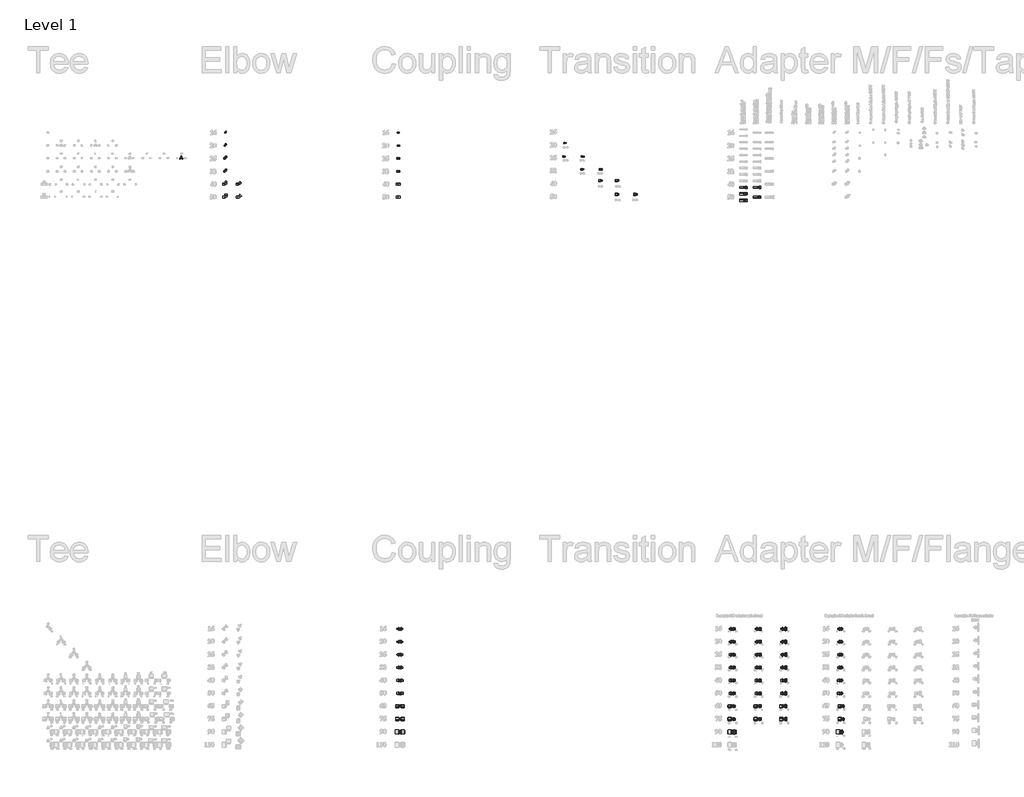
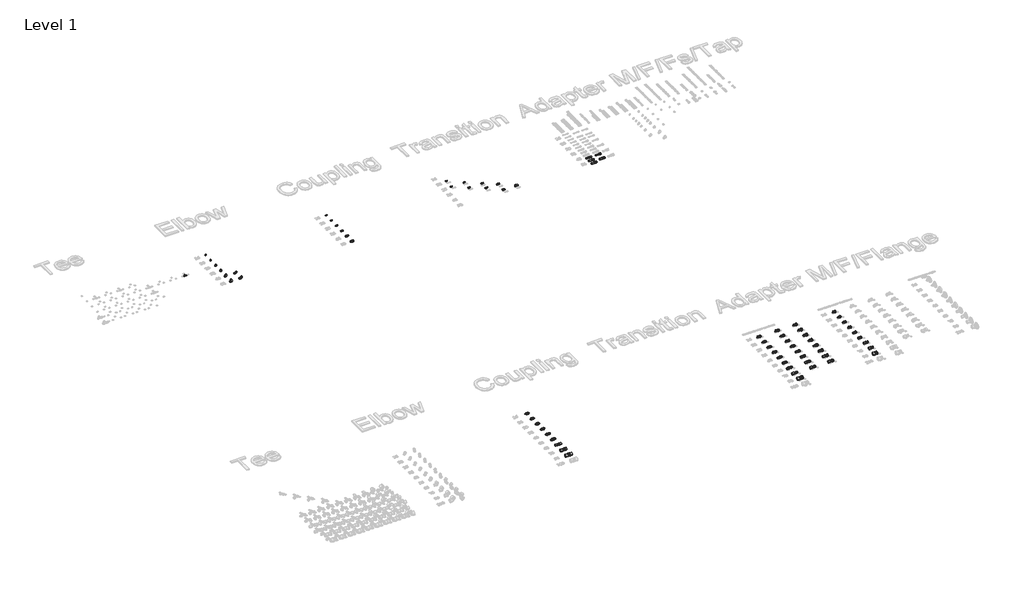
# One storey, part 4 of 57: 115 pipe fittings, 5 pipe segments.
"""IFC4 building model written with IfcOpenShell, lengths in millimetres."""

from ifc_helpers import new_model, si_unit, point, frame, frame_2d, origin, place, context, project, spatial, circle_curve, trimmed, segment, composite_curve, outline, extrude, transform, mapped, element, save
from components import pipe_fitting_febb8c26, pipe_fitting_ee53dc26, pipe_fitting_5d435a47, pipe_fitting_f86cb8b1, pipe_fitting_75c274c5, pipe_fitting_fdee5b0f, pipe_fitting_00e09e2c, pipe_fitting_8b6750b8, pipe_fitting_b58f9e6b, pipe_fitting_7024b630, pipe_fitting_8bcbff30, pipe_fitting_ede8caec, pipe_fitting_6526e532, pipe_fitting_38a23432, pipe_fitting_38146fe8, pipe_fitting_285861eb, pipe_fitting_791a4e73, pipe_fitting_e8fe2fe8, pipe_fitting_55ec275f, pipe_fitting_0a3e55ba, rs_adapter_b4bbd465, rs_adapter_f82712ed, rs_adapter_ef84fdb0, rs_adapter_c6cd646c, rs_adapter_ed761ce0, rs_adapter_634e7d73, rs_adapter_fc67200b, rs_adapter_b700a1d7, rs_adapter_1ad0a11d, rs_female_adapter_fa9c9adc, rs_female_adapter_0a1702e8, rs_male_adapter_99ed5b1f, rs_male_adapter_996c7fea, rs_male_adapter_f12c7176, rs_male_adapter_b5bc1ed4, superpipe_reducer_superpipe_reducer_d10aa00e, superpipe_reducer_superpipe_reducer_131d987d, superpipe_reducer_superpipe_reducer_bb732e57, superpipe_reducer_superpipe_reducer_4bdf23cd, superpipe_reducer_superpipe_reducer_a04450db, superpipe_reducer_superpipe_reducer_248c0d74, superpipe_reducer_superpipe_reducer_defe1720, superpipe_reducer_superpipe_reducer_0b1711ec, superpipe_reducer_superpipe_reducer_5a229b10

model = new_model("IFC4")

# Units and contexts
model_context = context("Model", 3, world=origin())
ifc_project = project(units=[si_unit("LENGTHUNIT", "METRE", prefix="MILLI")], contexts=[model_context])

# Site, building, storey
site = spatial("IfcSite", under=ifc_project)
building = spatial("IfcBuilding", under=site)
storey = spatial("IfcBuildingStorey", under=building, Name="Level 1", Elevation=27.3876384)

# Pipe fittings
placement = place(None, origin())
pipe_fitting_shape = pipe_fitting_febb8c26(model_context)
element("IfcPipeFitting", 1, ObjectType="SuperPipe_Tee_SPressPlus : SuperPipe_Tee_SPressPlus", at=placement, inside=storey, context=model_context, shape_type="MappedRepresentation", body=[
    mapped(pipe_fitting_shape, transform((16362.0630476, 29595.7013539, 27.3876384), x_axis=(-1.0, 0.0, 0.0), y_axis=(0.0, -1.0, 0.0), z_axis=(0.0, 0.0, 1.0))),
])
pipe_fitting_2_shape = pipe_fitting_ee53dc26(model_context)
element("IfcPipeFitting", 2, ObjectType="SuperPipe_Elbow_SPressPlus : SuperPipe_Elbow_SPressPlus", at=placement, inside=storey, context=model_context, shape_type="MappedRepresentation", body=[
    mapped(pipe_fitting_2_shape, transform((17402.2171608, 28995.9762969, 27.3876384), x_axis=(1.0, 0.0, 0.0), y_axis=(0.0, 1.0, 0.0), z_axis=(0.0, 0.0, 1.0))),
])
pipe_fitting_3_shape = pipe_fitting_5d435a47(model_context)
element("IfcPipeFitting", 3, ObjectType="SuperPipe_Coupling_SPressPlus : SuperPipe_Coupling_SPressPlus", at=placement, inside=storey, context=model_context, shape_type="MappedRepresentation", body=[
    mapped(pipe_fitting_3_shape, transform((21411.8746831, 29595.7013539, 27.3876384), x_axis=(1.0, 0.0, 0.0), y_axis=(0.0, 1.0, 0.0), z_axis=(0.0, 0.0, 1.0))),
])
pipe_fitting_4_shape = pipe_fitting_f86cb8b1(model_context)
element("IfcPipeFitting", 4, ObjectType="SuperPipe_Elbow_SPressPlus : SuperPipe_Elbow_SPressPlus", at=placement, inside=storey, context=model_context, shape_type="MappedRepresentation", body=[
    mapped(pipe_fitting_4_shape, transform((17402.2171608, 30195.9764109, 27.3876384), x_axis=(1.0, 0.0, 0.0), y_axis=(0.0, 1.0, 0.0), z_axis=(0.0, 0.0, 1.0))),
])
pipe_fitting_5_shape = pipe_fitting_75c274c5(model_context)
element("IfcPipeFitting", 5, ObjectType="SuperPipe_Elbow_SPressPlus : SuperPipe_Elbow_SPressPlus", at=placement, inside=storey, context=model_context, shape_type="MappedRepresentation", body=[
    mapped(pipe_fitting_5_shape, transform((17402.2171608, 29895.7038824, 27.3876384), x_axis=(1.0, 0.0, 0.0), y_axis=(0.0, 1.0, 0.0), z_axis=(0.0, 0.0, 1.0))),
])
pipe_fitting_6_shape = pipe_fitting_fdee5b0f(model_context)
element("IfcPipeFitting", 6, ObjectType="SuperPipe_Elbow_SPressPlus : SuperPipe_Elbow_SPressPlus", at=placement, inside=storey, context=model_context, shape_type="MappedRepresentation", body=[
    mapped(pipe_fitting_6_shape, transform((17402.2171608, 29595.7013539, 27.3876384), x_axis=(1.0, 0.0, 0.0), y_axis=(0.0, 1.0, 0.0), z_axis=(0.0, 0.0, 1.0))),
])
pipe_fitting_7_shape = pipe_fitting_00e09e2c(model_context)
element("IfcPipeFitting", 7, ObjectType="SuperPipe_Elbow_SPressPlus : SuperPipe_Elbow_SPressPlus", at=placement, inside=storey, context=model_context, shape_type="MappedRepresentation", body=[
    mapped(pipe_fitting_7_shape, transform((17402.2171608, 29295.7088254, 27.3876384), x_axis=(1.0, 0.0, 0.0), y_axis=(0.0, 1.0, 0.0), z_axis=(0.0, 0.0, 1.0))),
])
pipe_fitting_8_shape = pipe_fitting_8b6750b8(model_context)
element("IfcPipeFitting", 8, ObjectType="SuperPipe_Elbow_SPressPlus : SuperPipe_Elbow_SPressPlus", at=placement, inside=storey, context=model_context, shape_type="MappedRepresentation", body=[
    mapped(pipe_fitting_8_shape, transform((17402.2171608, 28695.9737684, 27.3876384), x_axis=(1.0, 0.0, 0.0), y_axis=(0.0, 1.0, 0.0), z_axis=(0.0, 0.0, 1.0))),
])
pipe_fitting_9_shape = pipe_fitting_b58f9e6b(model_context)
element("IfcPipeFitting", 9, ObjectType="SuperPipe_Elbow_SPressPlus : SuperPipe_Elbow_SPressPlus", at=placement, inside=storey, context=model_context, shape_type="MappedRepresentation", body=[
    mapped(pipe_fitting_9_shape, transform((17702.2171608, 28995.9762969, 27.3876384), x_axis=(1.0, 0.0, 0.0), y_axis=(0.0, 1.0, 0.0), z_axis=(0.0, 0.0, 1.0))),
])
pipe_fitting_10_shape = pipe_fitting_7024b630(model_context)
element("IfcPipeFitting", 10, ObjectType="SuperPipe_Elbow_SPressPlus : SuperPipe_Elbow_SPressPlus", at=placement, inside=storey, context=model_context, shape_type="MappedRepresentation", body=[
    mapped(pipe_fitting_10_shape, transform((17702.2171608, 28695.9737684, 27.3876384), x_axis=(1.0, 0.0, 0.0), y_axis=(0.0, 1.0, 0.0), z_axis=(0.0, 0.0, 1.0))),
])
pipe_fitting_11_shape = pipe_fitting_8bcbff30(model_context)
element("IfcPipeFitting", 11, ObjectType="SuperPipe_Coupling_SPressPlus : SuperPipe_Coupling_SPressPlus", at=placement, inside=storey, context=model_context, shape_type="MappedRepresentation", body=[
    mapped(pipe_fitting_11_shape, transform((21411.8746831, 30195.9764109, 27.3876384), x_axis=(1.0, 0.0, 0.0), y_axis=(0.0, 1.0, 0.0), z_axis=(0.0, 0.0, 1.0))),
])
pipe_fitting_12_shape = pipe_fitting_ede8caec(model_context)
element("IfcPipeFitting", 12, ObjectType="SuperPipe_Coupling_SPressPlus : SuperPipe_Coupling_SPressPlus", at=placement, inside=storey, context=model_context, shape_type="MappedRepresentation", body=[
    mapped(pipe_fitting_12_shape, transform((21411.8746831, 29895.7038824, 27.3876384), x_axis=(1.0, 0.0, 0.0), y_axis=(0.0, 1.0, 0.0), z_axis=(0.0, 0.0, 1.0))),
])
pipe_fitting_13_shape = pipe_fitting_6526e532(model_context)
element("IfcPipeFitting", 13, ObjectType="SuperPipe_Coupling_SPressPlus : SuperPipe_Coupling_SPressPlus", at=placement, inside=storey, context=model_context, shape_type="MappedRepresentation", body=[
    mapped(pipe_fitting_13_shape, transform((21411.8746831, 29295.7088254, 27.3876384), x_axis=(1.0, 0.0, 0.0), y_axis=(0.0, 1.0, 0.0), z_axis=(0.0, 0.0, 1.0))),
])
pipe_fitting_14_shape = pipe_fitting_38a23432(model_context)
element("IfcPipeFitting", 14, ObjectType="SuperPipe_Coupling_SPressPlus : SuperPipe_Coupling_SPressPlus", at=placement, inside=storey, context=model_context, shape_type="MappedRepresentation", body=[
    mapped(pipe_fitting_14_shape, transform((21411.8746831, 28995.9762969, 27.3876384), x_axis=(1.0, 0.0, 0.0), y_axis=(0.0, 1.0, 0.0), z_axis=(0.0, 0.0, 1.0))),
])
pipe_fitting_15_shape = pipe_fitting_38146fe8(model_context)
element("IfcPipeFitting", 15, ObjectType="SuperPipe_Coupling_SPressPlus : SuperPipe_Coupling_SPressPlus", at=placement, inside=storey, context=model_context, shape_type="MappedRepresentation", body=[
    mapped(pipe_fitting_15_shape, transform((21411.8746831, 28695.9737684, 27.3876384), x_axis=(1.0, 0.0, 0.0), y_axis=(0.0, 1.0, 0.0), z_axis=(0.0, 0.0, 1.0))),
])
pipe_fitting_16_shape = pipe_fitting_285861eb(model_context)
element("IfcPipeFitting", 16, ObjectType="SuperPipe_AdapterMT : 40-R1 1/2\"MT", at=placement, inside=storey, context=model_context, shape_type="MappedRepresentation", body=[
    mapped(pipe_fitting_16_shape, transform((29494.8745881, 28920.9751784, 27.3876384), x_axis=(1.0, 0.0, 0.0), y_axis=(0.0, 1.0, 0.0), z_axis=(0.0, 0.0, 1.0))),
])
pipe_fitting_17_shape = pipe_fitting_791a4e73(model_context)
element("IfcPipeFitting", 17, ObjectType="SuperPipe_AdapterFT_SPress_RP : 40-RP1 1/4\"FT", at=placement, inside=storey, context=model_context, shape_type="MappedRepresentation", body=[
    mapped(pipe_fitting_17_shape, transform((29814.8746831, 28920.9751784, 27.3876384), x_axis=(1.0, 0.0, 0.0), y_axis=(0.0, 1.0, 0.0), z_axis=(0.0, 0.0, 1.0))),
])
pipe_fitting_18_shape = pipe_fitting_e8fe2fe8(model_context)
element("IfcPipeFitting", 18, ObjectType="SuperPipe_AdapterMT : 50-R1 1/2\"MT", at=placement, inside=storey, context=model_context, shape_type="MappedRepresentation", body=[
    mapped(pipe_fitting_18_shape, transform((29494.8745881, 28770.9751784, 27.3876384), x_axis=(1.0, 0.0, 0.0), y_axis=(0.0, 1.0, 0.0), z_axis=(0.0, 0.0, 1.0))),
])
pipe_fitting_19_shape = pipe_fitting_55ec275f(model_context)
element("IfcPipeFitting", 19, ObjectType="SuperPipe_AdapterMT : 50-R2\"MT", at=placement, inside=storey, context=model_context, shape_type="MappedRepresentation", body=[
    mapped(pipe_fitting_19_shape, transform((29490.8745881, 28620.9751784, 27.3876384), x_axis=(1.0, 0.0, 0.0), y_axis=(0.0, 1.0, 0.0), z_axis=(0.0, 0.0, 1.0))),
])
pipe_fitting_20_shape = pipe_fitting_0a3e55ba(model_context)
element("IfcPipeFitting", 20, ObjectType="SuperPipe_AdapterFT_SPress_RP : 50-RP1 1/2\"FT", at=placement, inside=storey, context=model_context, shape_type="MappedRepresentation", body=[
    mapped(pipe_fitting_20_shape, transform((29814.8746831, 28695.9751784, 27.3876384), x_axis=(1.0, 0.0, 0.0), y_axis=(0.0, 1.0, 0.0), z_axis=(0.0, 0.0, 1.0))),
])
rs_adapter_shape = rs_adapter_b4bbd465(model_context)
element("IfcPipeFitting", 21, ObjectType="RS Adapter : Superpipe RS Press Adapter", at=placement, inside=storey, context=model_context, shape_type="MappedRepresentation", body=[
    mapped(rs_adapter_shape, transform((21455.9646899, 18646.8081159, 27.3876384), x_axis=(1.0000000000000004, 0.0, 0.0), y_axis=(0.0, -1.0000000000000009, 0.0), z_axis=(0.0, 0.0, -1.0000000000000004))),
])
element("IfcPipeFitting", 22, ObjectType="RS Adapter : Superpipe RS Press Adapter", at=placement, inside=storey, context=model_context, shape_type="MappedRepresentation", body=[
    mapped(rs_adapter_shape, transform((21437.9646899, 18646.8081159, 27.3876384), x_axis=(-1.0000000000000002, 0.0, 0.0), y_axis=(0.0, 1.0000000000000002, 0.0), z_axis=(0.0, 0.0, -1.0))),
])
element("IfcPipeFitting", 23, ObjectType="RS Adapter : Superpipe RS Press Adapter", at=placement, inside=storey, context=model_context, shape_type="MappedRepresentation", body=[
    mapped(rs_adapter_shape, transform((29168.6568613, 18646.8081159, 27.3876384), x_axis=(-1.0, 0.0, 0.0), y_axis=(0.0, 1.0, 0.0), z_axis=(0.0, 0.0, -1.0))),
])
element("IfcPipeFitting", 24, ObjectType="RS Adapter : Superpipe RS Press Adapter", at=placement, inside=storey, context=model_context, shape_type="MappedRepresentation", body=[
    mapped(rs_adapter_shape, transform((31688.6568613, 18646.8081159, 27.3876384), x_axis=(-1.0000000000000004, 0.0, 0.0), y_axis=(0.0, 1.0000000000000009, 0.0), z_axis=(0.0, 0.0, -1.0000000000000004))),
])
element("IfcPipeFitting", 25, ObjectType="RS Adapter : Superpipe RS Press Adapter", at=placement, inside=storey, context=model_context, shape_type="MappedRepresentation", body=[
    mapped(rs_adapter_shape, transform((29773.6568613, 18646.8081159, 27.3876384), x_axis=(-1.0, 0.0, 0.0), y_axis=(0.0, 1.0, 0.0), z_axis=(0.0, 0.0, -1.0))),
])
element("IfcPipeFitting", 26, ObjectType="RS Adapter : Superpipe RS Press Adapter", at=placement, inside=storey, context=model_context, shape_type="MappedRepresentation", body=[
    mapped(rs_adapter_shape, transform((30368.6568613, 18646.8081159, 27.3876384), x_axis=(-1.0, 0.0, 0.0), y_axis=(0.0, -1.0, 0.0), z_axis=(0.0, 0.0, 1.0))),
])
rs_adapter_2_shape = rs_adapter_f82712ed(model_context)
element("IfcPipeFitting", 27, ObjectType="RS Adapter : Superpipe RS Press Adapter", at=placement, inside=storey, context=model_context, shape_type="MappedRepresentation", body=[
    mapped(rs_adapter_2_shape, transform((21455.9646899, 18346.8081159, 27.3876384), x_axis=(1.0000000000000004, 0.0, 0.0), y_axis=(0.0, -1.0000000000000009, 0.0), z_axis=(0.0, 0.0, -1.0000000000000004))),
])
element("IfcPipeFitting", 28, ObjectType="RS Adapter : Superpipe RS Press Adapter", at=placement, inside=storey, context=model_context, shape_type="MappedRepresentation", body=[
    mapped(rs_adapter_2_shape, transform((21437.9646899, 18346.8081159, 27.3876384), x_axis=(-1.0000000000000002, 0.0, 0.0), y_axis=(0.0, 1.0000000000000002, 0.0), z_axis=(0.0, 0.0, -1.0))),
])
element("IfcPipeFitting", 29, ObjectType="RS Adapter : Superpipe RS Press Adapter", at=placement, inside=storey, context=model_context, shape_type="MappedRepresentation", body=[
    mapped(rs_adapter_2_shape, transform((29168.6568613, 18346.8081159, 27.3876384), x_axis=(-1.0, 0.0, 0.0), y_axis=(0.0, 1.0, 0.0), z_axis=(0.0, 0.0, -1.0))),
])
element("IfcPipeFitting", 30, ObjectType="RS Adapter : Superpipe RS Press Adapter", at=placement, inside=storey, context=model_context, shape_type="MappedRepresentation", body=[
    mapped(rs_adapter_2_shape, transform((31688.6568613, 18346.8081159, 27.3876384), x_axis=(-1.0000000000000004, 0.0, 0.0), y_axis=(0.0, 1.0000000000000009, 0.0), z_axis=(0.0, 0.0, -1.0000000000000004))),
])
element("IfcPipeFitting", 31, ObjectType="RS Adapter : Superpipe RS Press Adapter", at=placement, inside=storey, context=model_context, shape_type="MappedRepresentation", body=[
    mapped(rs_adapter_2_shape, transform((29773.6568613, 18346.8081159, 27.3876384), x_axis=(-1.0, 0.0, 0.0), y_axis=(0.0, 1.0, 0.0), z_axis=(0.0, 0.0, -1.0))),
])
element("IfcPipeFitting", 32, ObjectType="RS Adapter : Superpipe RS Press Adapter", at=placement, inside=storey, context=model_context, shape_type="MappedRepresentation", body=[
    mapped(rs_adapter_2_shape, transform((30368.6568613, 18346.8081159, 27.3876384), x_axis=(-1.0, 0.0, 0.0), y_axis=(0.0, -1.0, 0.0), z_axis=(0.0, 0.0, 1.0))),
])
rs_adapter_3_shape = rs_adapter_ef84fdb0(model_context)
element("IfcPipeFitting", 33, ObjectType="RS Adapter : Superpipe RS Press Adapter", at=placement, inside=storey, context=model_context, shape_type="MappedRepresentation", body=[
    mapped(rs_adapter_3_shape, transform((21455.9646899, 18046.8081159, 27.3876384), x_axis=(1.0000000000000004, 0.0, 0.0), y_axis=(0.0, -1.0000000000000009, 0.0), z_axis=(0.0, 0.0, -1.0000000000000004))),
])
element("IfcPipeFitting", 34, ObjectType="RS Adapter : Superpipe RS Press Adapter", at=placement, inside=storey, context=model_context, shape_type="MappedRepresentation", body=[
    mapped(rs_adapter_3_shape, transform((21437.9646899, 18046.8081159, 27.3876384), x_axis=(-1.0000000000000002, 0.0, 0.0), y_axis=(0.0, 1.0000000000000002, 0.0), z_axis=(0.0, 0.0, -1.0))),
])
element("IfcPipeFitting", 35, ObjectType="RS Adapter : Superpipe RS Press Adapter", at=placement, inside=storey, context=model_context, shape_type="MappedRepresentation", body=[
    mapped(rs_adapter_3_shape, transform((29168.6568613, 18046.8081159, 27.3876384), x_axis=(-1.0, 0.0, 0.0), y_axis=(0.0, 1.0, 0.0), z_axis=(0.0, 0.0, -1.0))),
])
element("IfcPipeFitting", 36, ObjectType="RS Adapter : Superpipe RS Press Adapter", at=placement, inside=storey, context=model_context, shape_type="MappedRepresentation", body=[
    mapped(rs_adapter_3_shape, transform((31688.6568613, 18046.8081159, 27.3876384), x_axis=(-1.0000000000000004, 0.0, 0.0), y_axis=(0.0, 1.0000000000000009, 0.0), z_axis=(0.0, 0.0, -1.0000000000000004))),
])
element("IfcPipeFitting", 37, ObjectType="RS Adapter : Superpipe RS Press Adapter", at=placement, inside=storey, context=model_context, shape_type="MappedRepresentation", body=[
    mapped(rs_adapter_3_shape, transform((29773.6568613, 18046.8081159, 27.3876384), x_axis=(-1.0, 0.0, 0.0), y_axis=(0.0, 1.0, 0.0), z_axis=(0.0, 0.0, -1.0))),
])
element("IfcPipeFitting", 38, ObjectType="RS Adapter : Superpipe RS Press Adapter", at=placement, inside=storey, context=model_context, shape_type="MappedRepresentation", body=[
    mapped(rs_adapter_3_shape, transform((30368.6568613, 18046.8081159, 27.3876384), x_axis=(-1.0, 0.0, 0.0), y_axis=(0.0, -1.0, 0.0), z_axis=(0.0, 0.0, 1.0))),
])
rs_adapter_4_shape = rs_adapter_c6cd646c(model_context)
element("IfcPipeFitting", 39, ObjectType="RS Adapter : Superpipe RS Press Adapter", at=placement, inside=storey, context=model_context, shape_type="MappedRepresentation", body=[
    mapped(rs_adapter_4_shape, transform((21437.9646899, 16246.8081159, 27.3876384), x_axis=(-1.0000000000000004, 0.0, 0.0), y_axis=(0.0, 1.0000000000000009, 0.0), z_axis=(0.0, 0.0, -1.0000000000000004))),
])
element("IfcPipeFitting", 40, ObjectType="RS Adapter : Superpipe RS Press Adapter", at=placement, inside=storey, context=model_context, shape_type="MappedRepresentation", body=[
    mapped(rs_adapter_4_shape, transform((21455.9646899, 16246.8081159, 27.3876384), x_axis=(1.0000000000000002, 0.0, 0.0), y_axis=(0.0, -1.0000000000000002, 0.0), z_axis=(0.0, 0.0, -1.0))),
])
element("IfcPipeFitting", 41, ObjectType="RS Adapter : Superpipe RS Press Adapter", at=placement, inside=storey, context=model_context, shape_type="MappedRepresentation", body=[
    mapped(rs_adapter_4_shape, transform((29176.6568613, 16246.8081159, 27.3876384), x_axis=(-1.0, 0.0, 0.0), y_axis=(0.0, 1.0, 0.0), z_axis=(0.0, 0.0, -1.0))),
])
element("IfcPipeFitting", 42, ObjectType="RS Adapter : Superpipe RS Press Adapter", at=placement, inside=storey, context=model_context, shape_type="MappedRepresentation", body=[
    mapped(rs_adapter_4_shape, transform((31696.6568613, 16246.8081159, 27.3876384), x_axis=(-1.0000000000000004, 0.0, 0.0), y_axis=(0.0, 1.0000000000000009, 0.0), z_axis=(0.0, 0.0, -1.0000000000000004))),
])
rs_adapter_5_shape = rs_adapter_ed761ce0(model_context)
element("IfcPipeFitting", 43, ObjectType="RS Adapter : Superpipe RS Press Adapter", at=placement, inside=storey, context=model_context, shape_type="MappedRepresentation", body=[
    mapped(rs_adapter_5_shape, transform((21455.9646899, 17746.8081159, 27.3876384), x_axis=(1.0000000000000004, 0.0, 0.0), y_axis=(0.0, -1.0000000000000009, 0.0), z_axis=(0.0, 0.0, -1.0000000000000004))),
])
element("IfcPipeFitting", 44, ObjectType="RS Adapter : Superpipe RS Press Adapter", at=placement, inside=storey, context=model_context, shape_type="MappedRepresentation", body=[
    mapped(rs_adapter_5_shape, transform((21437.9646899, 17746.8081159, 27.3876384), x_axis=(-1.0000000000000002, 0.0, 0.0), y_axis=(0.0, 1.0000000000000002, 0.0), z_axis=(0.0, 0.0, -1.0))),
])
element("IfcPipeFitting", 45, ObjectType="RS Adapter : Superpipe RS Press Adapter", at=placement, inside=storey, context=model_context, shape_type="MappedRepresentation", body=[
    mapped(rs_adapter_5_shape, transform((29168.6568613, 17746.8081159, 27.3876384), x_axis=(-1.0, 0.0, 0.0), y_axis=(0.0, 1.0, 0.0), z_axis=(0.0, 0.0, -1.0))),
])
element("IfcPipeFitting", 46, ObjectType="RS Adapter : Superpipe RS Press Adapter", at=placement, inside=storey, context=model_context, shape_type="MappedRepresentation", body=[
    mapped(rs_adapter_5_shape, transform((31688.6568613, 17746.8081159, 27.3876384), x_axis=(-1.0000000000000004, 0.0, 0.0), y_axis=(0.0, 1.0000000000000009, 0.0), z_axis=(0.0, 0.0, -1.0000000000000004))),
])
element("IfcPipeFitting", 47, ObjectType="RS Adapter : Superpipe RS Press Adapter", at=placement, inside=storey, context=model_context, shape_type="MappedRepresentation", body=[
    mapped(rs_adapter_5_shape, transform((29773.6568613, 17746.8081159, 27.3876384), x_axis=(-1.0, 0.0, 0.0), y_axis=(0.0, 1.0, 0.0), z_axis=(0.0, 0.0, -1.0))),
])
element("IfcPipeFitting", 48, ObjectType="RS Adapter : Superpipe RS Press Adapter", at=placement, inside=storey, context=model_context, shape_type="MappedRepresentation", body=[
    mapped(rs_adapter_5_shape, transform((30368.6568613, 17746.8081159, 27.3876384), x_axis=(-1.0, 0.0, 0.0), y_axis=(0.0, -1.0, 0.0), z_axis=(0.0, 0.0, 1.0))),
])
rs_adapter_6_shape = rs_adapter_634e7d73(model_context)
element("IfcPipeFitting", 49, ObjectType="RS Adapter : Superpipe RS Press Adapter", at=placement, inside=storey, context=model_context, shape_type="MappedRepresentation", body=[
    mapped(rs_adapter_6_shape, transform((21455.9646899, 17446.8081159, 27.3876384), x_axis=(1.0000000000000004, 0.0, 0.0), y_axis=(0.0, -1.0000000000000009, 0.0), z_axis=(0.0, 0.0, -1.0000000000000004))),
])
element("IfcPipeFitting", 50, ObjectType="RS Adapter : Superpipe RS Press Adapter", at=placement, inside=storey, context=model_context, shape_type="MappedRepresentation", body=[
    mapped(rs_adapter_6_shape, transform((21437.9646899, 17446.8081159, 27.3876384), x_axis=(-1.0000000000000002, 0.0, 0.0), y_axis=(0.0, 1.0000000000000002, 0.0), z_axis=(0.0, 0.0, -1.0))),
])
element("IfcPipeFitting", 51, ObjectType="RS Adapter : Superpipe RS Press Adapter", at=placement, inside=storey, context=model_context, shape_type="MappedRepresentation", body=[
    mapped(rs_adapter_6_shape, transform((29168.6568613, 17446.8081159, 27.3876384), x_axis=(-1.0, 0.0, 0.0), y_axis=(0.0, 1.0, 0.0), z_axis=(0.0, 0.0, -1.0))),
])
element("IfcPipeFitting", 52, ObjectType="RS Adapter : Superpipe RS Press Adapter", at=placement, inside=storey, context=model_context, shape_type="MappedRepresentation", body=[
    mapped(rs_adapter_6_shape, transform((31688.6568613, 17446.8081159, 27.3876384), x_axis=(-1.0000000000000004, 0.0, 0.0), y_axis=(0.0, 1.0000000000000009, 0.0), z_axis=(0.0, 0.0, -1.0000000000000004))),
])
element("IfcPipeFitting", 53, ObjectType="RS Adapter : Superpipe RS Press Adapter", at=placement, inside=storey, context=model_context, shape_type="MappedRepresentation", body=[
    mapped(rs_adapter_6_shape, transform((29773.6568613, 17446.8081159, 27.3876384), x_axis=(-1.0, 0.0, 0.0), y_axis=(0.0, 1.0, 0.0), z_axis=(0.0, 0.0, -1.0))),
])
element("IfcPipeFitting", 54, ObjectType="RS Adapter : Superpipe RS Press Adapter", at=placement, inside=storey, context=model_context, shape_type="MappedRepresentation", body=[
    mapped(rs_adapter_6_shape, transform((30368.6568613, 17446.8081159, 27.3876384), x_axis=(-1.0, 0.0, 0.0), y_axis=(0.0, -1.0, 0.0), z_axis=(0.0, 0.0, 1.0))),
])
rs_adapter_7_shape = rs_adapter_fc67200b(model_context)
element("IfcPipeFitting", 55, ObjectType="RS Adapter : Superpipe RS Press Adapter", at=placement, inside=storey, context=model_context, shape_type="MappedRepresentation", body=[
    mapped(rs_adapter_7_shape, transform((21455.9646899, 17146.8081159, 27.3876384), x_axis=(1.0000000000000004, 0.0, 0.0), y_axis=(0.0, -1.0000000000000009, 0.0), z_axis=(0.0, 0.0, -1.0000000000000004))),
])
element("IfcPipeFitting", 56, ObjectType="RS Adapter : Superpipe RS Press Adapter", at=placement, inside=storey, context=model_context, shape_type="MappedRepresentation", body=[
    mapped(rs_adapter_7_shape, transform((21437.9646899, 17146.8081159, 27.3876384), x_axis=(-1.0000000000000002, 0.0, 0.0), y_axis=(0.0, 1.0000000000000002, 0.0), z_axis=(0.0, 0.0, -1.0))),
])
element("IfcPipeFitting", 57, ObjectType="RS Adapter : Superpipe RS Press Adapter", at=placement, inside=storey, context=model_context, shape_type="MappedRepresentation", body=[
    mapped(rs_adapter_7_shape, transform((29168.6568613, 17146.8081159, 27.3876384), x_axis=(-1.0, 0.0, 0.0), y_axis=(0.0, 1.0, 0.0), z_axis=(0.0, 0.0, -1.0))),
])
element("IfcPipeFitting", 58, ObjectType="RS Adapter : Superpipe RS Press Adapter", at=placement, inside=storey, context=model_context, shape_type="MappedRepresentation", body=[
    mapped(rs_adapter_7_shape, transform((31688.6568613, 17146.8081159, 27.3876384), x_axis=(-1.0000000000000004, 0.0, 0.0), y_axis=(0.0, 1.0000000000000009, 0.0), z_axis=(0.0, 0.0, -1.0000000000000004))),
])
element("IfcPipeFitting", 59, ObjectType="RS Adapter : Superpipe RS Press Adapter", at=placement, inside=storey, context=model_context, shape_type="MappedRepresentation", body=[
    mapped(rs_adapter_7_shape, transform((29773.6568613, 17146.8081159, 27.3876384), x_axis=(-1.0, 0.0, 0.0), y_axis=(0.0, 1.0, 0.0), z_axis=(0.0, 0.0, -1.0))),
])
element("IfcPipeFitting", 60, ObjectType="RS Adapter : Superpipe RS Press Adapter", at=placement, inside=storey, context=model_context, shape_type="MappedRepresentation", body=[
    mapped(rs_adapter_7_shape, transform((30368.6568613, 17146.8081159, 27.3876384), x_axis=(-1.0, 0.0, 0.0), y_axis=(0.0, -1.0, 0.0), z_axis=(0.0, 0.0, 1.0))),
])
rs_adapter_8_shape = rs_adapter_b700a1d7(model_context)
element("IfcPipeFitting", 61, ObjectType="RS Adapter : Superpipe RS Press Adapter", at=placement, inside=storey, context=model_context, shape_type="MappedRepresentation", body=[
    mapped(rs_adapter_8_shape, transform((21455.9646899, 16546.8081159, 27.3876384), x_axis=(1.0000000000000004, 0.0, 0.0), y_axis=(0.0, -1.0000000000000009, 0.0), z_axis=(0.0, 0.0, -1.0000000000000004))),
])
element("IfcPipeFitting", 62, ObjectType="RS Adapter : Superpipe RS Press Adapter", at=placement, inside=storey, context=model_context, shape_type="MappedRepresentation", body=[
    mapped(rs_adapter_8_shape, transform((21437.9646899, 16546.8081159, 27.3876384), x_axis=(-1.0000000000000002, 0.0, 0.0), y_axis=(0.0, 1.0000000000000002, 0.0), z_axis=(0.0, 0.0, -1.0))),
])
element("IfcPipeFitting", 63, ObjectType="RS Adapter : Superpipe RS Press Adapter", at=placement, inside=storey, context=model_context, shape_type="MappedRepresentation", body=[
    mapped(rs_adapter_8_shape, transform((29168.6568613, 16546.8081159, 27.3876384), x_axis=(-1.0, 0.0, 0.0), y_axis=(0.0, 1.0, 0.0), z_axis=(0.0, 0.0, -1.0))),
])
element("IfcPipeFitting", 64, ObjectType="RS Adapter : Superpipe RS Press Adapter", at=placement, inside=storey, context=model_context, shape_type="MappedRepresentation", body=[
    mapped(rs_adapter_8_shape, transform((31728.6568613, 16546.8081159, 27.3876384), x_axis=(-1.0000000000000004, 0.0, 0.0), y_axis=(0.0, 1.0000000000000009, 0.0), z_axis=(0.0, 0.0, -1.0000000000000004))),
])
element("IfcPipeFitting", 65, ObjectType="RS Adapter : Superpipe RS Press Adapter", at=placement, inside=storey, context=model_context, shape_type="MappedRepresentation", body=[
    mapped(rs_adapter_8_shape, transform((29773.6568613, 16546.8081159, 27.3876384), x_axis=(-1.0, 0.0, 0.0), y_axis=(0.0, 1.0, 0.0), z_axis=(0.0, 0.0, -1.0))),
])
element("IfcPipeFitting", 66, ObjectType="RS Adapter : Superpipe RS Press Adapter", at=placement, inside=storey, context=model_context, shape_type="MappedRepresentation", body=[
    mapped(rs_adapter_8_shape, transform((30368.6568613, 16546.8081159, 27.3876384), x_axis=(-1.0, 0.0, 0.0), y_axis=(0.0, -1.0, 0.0), z_axis=(0.0, 0.0, 1.0))),
])
rs_adapter_9_shape = rs_adapter_1ad0a11d(model_context)
element("IfcPipeFitting", 67, ObjectType="RS Adapter : Superpipe RS Press Adapter", at=placement, inside=storey, context=model_context, shape_type="MappedRepresentation", body=[
    mapped(rs_adapter_9_shape, transform((21437.9646899, 16846.8081159, 27.3876384), x_axis=(-1.0000000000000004, 0.0, 0.0), y_axis=(0.0, 1.0000000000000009, 0.0), z_axis=(0.0, 0.0, -1.0000000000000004))),
])
element("IfcPipeFitting", 68, ObjectType="RS Adapter : Superpipe RS Press Adapter", at=placement, inside=storey, context=model_context, shape_type="MappedRepresentation", body=[
    mapped(rs_adapter_9_shape, transform((21455.9646899, 16846.8081159, 27.3876384), x_axis=(1.0000000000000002, 0.0, 0.0), y_axis=(0.0, -1.0000000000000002, 0.0), z_axis=(0.0, 0.0, -1.0))),
])
element("IfcPipeFitting", 69, ObjectType="RS Adapter : Superpipe RS Press Adapter", at=placement, inside=storey, context=model_context, shape_type="MappedRepresentation", body=[
    mapped(rs_adapter_9_shape, transform((29168.6568613, 16846.8081159, 27.3876384), x_axis=(-1.0, 0.0, 0.0), y_axis=(0.0, 1.0, 0.0), z_axis=(0.0, 0.0, -1.0))),
])
element("IfcPipeFitting", 70, ObjectType="RS Adapter : Superpipe RS Press Adapter", at=placement, inside=storey, context=model_context, shape_type="MappedRepresentation", body=[
    mapped(rs_adapter_9_shape, transform((31728.6568613, 16846.8081159, 27.3876384), x_axis=(-1.0000000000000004, 0.0, 0.0), y_axis=(0.0, 1.0000000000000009, 0.0), z_axis=(0.0, 0.0, -1.0000000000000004))),
])
element("IfcPipeFitting", 71, ObjectType="RS Adapter : Superpipe RS Press Adapter", at=placement, inside=storey, context=model_context, shape_type="MappedRepresentation", body=[
    mapped(rs_adapter_9_shape, transform((29773.6568613, 16846.8081159, 27.3876384), x_axis=(-1.0, 0.0, 0.0), y_axis=(0.0, 1.0, 0.0), z_axis=(0.0, 0.0, -1.0))),
])
element("IfcPipeFitting", 72, ObjectType="RS Adapter : Superpipe RS Press Adapter", at=placement, inside=storey, context=model_context, shape_type="MappedRepresentation", body=[
    mapped(rs_adapter_9_shape, transform((30368.6568613, 16846.8081159, 27.3876384), x_axis=(-1.0, 0.0, 0.0), y_axis=(0.0, -1.0, 0.0), z_axis=(0.0, 0.0, 1.0))),
])
rs_female_adapter_shape = rs_female_adapter_fa9c9adc(model_context)
element("IfcPipeFitting", 73, ObjectType="RS Female Adapter : Superpipe RS2 FT Adapter ½”", at=placement, inside=storey, context=model_context, shape_type="MappedRepresentation", body=[
    mapped(rs_female_adapter_shape, transform((31706.6568613, 18646.8081159, 27.3876384), x_axis=(1.0, 0.0, 0.0), y_axis=(0.0, -1.0, 0.0), z_axis=(0.0, 0.0, -1.0))),
])
element("IfcPipeFitting", 74, ObjectType="RS Female Adapter : Superpipe RS2 FT Adapter ½”", at=placement, inside=storey, context=model_context, shape_type="MappedRepresentation", body=[
    mapped(rs_female_adapter_shape, transform((31706.6568613, 18046.8081159, 27.3876384), x_axis=(1.0, 0.0, 0.0), y_axis=(0.0, -1.0, 0.0), z_axis=(0.0, 0.0, -1.0))),
])
element("IfcPipeFitting", 75, ObjectType="RS Female Adapter : Superpipe RS2 FT Adapter ½”", at=placement, inside=storey, context=model_context, shape_type="MappedRepresentation", body=[
    mapped(rs_female_adapter_shape, transform((31706.6568613, 17746.8081159, 27.3876384), x_axis=(1.0, 0.0, 0.0), y_axis=(0.0, -1.0, 0.0), z_axis=(0.0, 0.0, -1.0))),
])
element("IfcPipeFitting", 76, ObjectType="RS Female Adapter : Superpipe RS2 FT Adapter ½”", at=placement, inside=storey, context=model_context, shape_type="MappedRepresentation", body=[
    mapped(rs_female_adapter_shape, transform((31706.6568613, 17446.8081159, 27.3876384), x_axis=(1.0, 0.0, 0.0), y_axis=(0.0, -1.0, 0.0), z_axis=(0.0, 0.0, -1.0))),
])
element("IfcPipeFitting", 77, ObjectType="RS Female Adapter : Superpipe RS2 FT Adapter ½”", at=placement, inside=storey, context=model_context, shape_type="MappedRepresentation", body=[
    mapped(rs_female_adapter_shape, transform((31706.6568613, 17146.8081159, 27.3876384), x_axis=(1.0, 0.0, 0.0), y_axis=(0.0, -1.0, 0.0), z_axis=(0.0, 0.0, -1.0))),
])
element("IfcPipeFitting", 78, ObjectType="RS Female Adapter : Superpipe RS2 FT Adapter ½”", at=placement, inside=storey, context=model_context, shape_type="MappedRepresentation", body=[
    mapped(rs_female_adapter_shape, transform((31746.6568613, 16846.8081159, 27.3876384), x_axis=(1.0, 0.0, 0.0), y_axis=(0.0, -1.0, 0.0), z_axis=(0.0, 0.0, -1.0))),
])
element("IfcPipeFitting", 79, ObjectType="RS Female Adapter : Superpipe RS2 FT Adapter ½”", at=placement, inside=storey, context=model_context, shape_type="MappedRepresentation", body=[
    mapped(rs_female_adapter_shape, transform((31746.6568613, 16546.8081159, 27.3876384), x_axis=(1.0, 0.0, 0.0), y_axis=(0.0, -1.0, 0.0), z_axis=(0.0, 0.0, -1.0))),
])
element("IfcPipeFitting", 80, ObjectType="RS Female Adapter : Superpipe RS2 FT Adapter ½”", at=placement, inside=storey, context=model_context, shape_type="MappedRepresentation", body=[
    mapped(rs_female_adapter_shape, transform((31706.6568613, 18346.8081159, 27.3876384), x_axis=(1.0, 0.0, 0.0), y_axis=(0.0, -1.0, 0.0), z_axis=(0.0, 0.0, -1.0))),
])
rs_female_adapter_2_shape = rs_female_adapter_0a1702e8(model_context)
element("IfcPipeFitting", 81, ObjectType="RS Female Adapter : Superpipe RS3 FT Adapter ½”", at=placement, inside=storey, context=model_context, shape_type="MappedRepresentation", body=[
    mapped(rs_female_adapter_2_shape, transform((31714.6568613, 16246.8081159, 27.3876384), x_axis=(1.0, 0.0, 0.0), y_axis=(0.0, -1.0, 0.0), z_axis=(0.0, 0.0, -1.0))),
])
rs_male_adapter_shape = rs_male_adapter_99ed5b1f(model_context)
element("IfcPipeFitting", 82, ObjectType="RS Male Adapter : Superpipe RS2 MT Adapter 2”", at=placement, inside=storey, context=model_context, shape_type="MappedRepresentation", body=[
    mapped(rs_male_adapter_shape, transform((29791.6568613, 18646.8081159, 27.3876384), x_axis=(1.0, 0.0, 0.0), y_axis=(0.0, -1.0, 0.0), z_axis=(0.0, 0.0, -1.0))),
])
element("IfcPipeFitting", 83, ObjectType="RS Male Adapter : Superpipe RS2 MT Adapter 2”", at=placement, inside=storey, context=model_context, shape_type="MappedRepresentation", body=[
    mapped(rs_male_adapter_shape, transform((29791.6568613, 18346.8081159, 27.3876384), x_axis=(1.0, 0.0, 0.0), y_axis=(0.0, -1.0, 0.0), z_axis=(0.0, 0.0, -1.0))),
])
element("IfcPipeFitting", 84, ObjectType="RS Male Adapter : Superpipe RS2 MT Adapter 2”", at=placement, inside=storey, context=model_context, shape_type="MappedRepresentation", body=[
    mapped(rs_male_adapter_shape, transform((29791.6568613, 18046.8081159, 27.3876384), x_axis=(1.0, 0.0, 0.0), y_axis=(0.0, -1.0, 0.0), z_axis=(0.0, 0.0, -1.0))),
])
element("IfcPipeFitting", 85, ObjectType="RS Male Adapter : Superpipe RS2 MT Adapter 2”", at=placement, inside=storey, context=model_context, shape_type="MappedRepresentation", body=[
    mapped(rs_male_adapter_shape, transform((29791.6568613, 17746.8081159, 27.3876384), x_axis=(1.0, 0.0, 0.0), y_axis=(0.0, -1.0, 0.0), z_axis=(0.0, 0.0, -1.0))),
])
element("IfcPipeFitting", 86, ObjectType="RS Male Adapter : Superpipe RS2 MT Adapter 2”", at=placement, inside=storey, context=model_context, shape_type="MappedRepresentation", body=[
    mapped(rs_male_adapter_shape, transform((29791.6568613, 17446.8081159, 27.3876384), x_axis=(1.0, 0.0, 0.0), y_axis=(0.0, -1.0, 0.0), z_axis=(0.0, 0.0, -1.0))),
])
element("IfcPipeFitting", 87, ObjectType="RS Male Adapter : Superpipe RS2 MT Adapter 2”", at=placement, inside=storey, context=model_context, shape_type="MappedRepresentation", body=[
    mapped(rs_male_adapter_shape, transform((29791.6568613, 17146.8081159, 27.3876384), x_axis=(1.0, 0.0, 0.0), y_axis=(0.0, -1.0, 0.0), z_axis=(0.0, 0.0, -1.0))),
])
element("IfcPipeFitting", 88, ObjectType="RS Male Adapter : Superpipe RS2 MT Adapter 2”", at=placement, inside=storey, context=model_context, shape_type="MappedRepresentation", body=[
    mapped(rs_male_adapter_shape, transform((29791.6568613, 16846.8081159, 27.3876384), x_axis=(1.0, 0.0, 0.0), y_axis=(0.0, -1.0, 0.0), z_axis=(0.0, 0.0, -1.0))),
])
element("IfcPipeFitting", 89, ObjectType="RS Male Adapter : Superpipe RS2 MT Adapter 2”", at=placement, inside=storey, context=model_context, shape_type="MappedRepresentation", body=[
    mapped(rs_male_adapter_shape, transform((29791.6568613, 16546.8081159, 27.3876384), x_axis=(1.0, 0.0, 0.0), y_axis=(0.0, -1.0, 0.0), z_axis=(0.0, 0.0, -1.0))),
])
rs_male_adapter_2_shape = rs_male_adapter_996c7fea(model_context)
element("IfcPipeFitting", 90, ObjectType="RS Male Adapter : Superpipe RS2 MT Adapter  2 ½”", at=placement, inside=storey, context=model_context, shape_type="MappedRepresentation", body=[
    mapped(rs_male_adapter_2_shape, transform((30386.6568613, 18646.8081159, 27.3876384), x_axis=(1.0, 0.0, 0.0), y_axis=(0.0, 1.0, 0.0), z_axis=(0.0, 0.0, 1.0))),
])
element("IfcPipeFitting", 91, ObjectType="RS Male Adapter : Superpipe RS2 MT Adapter  2 ½”", at=placement, inside=storey, context=model_context, shape_type="MappedRepresentation", body=[
    mapped(rs_male_adapter_2_shape, transform((30386.6568613, 18346.8081159, 27.3876384), x_axis=(1.0, 0.0, 0.0), y_axis=(0.0, 1.0, 0.0), z_axis=(0.0, 0.0, 1.0))),
])
element("IfcPipeFitting", 92, ObjectType="RS Male Adapter : Superpipe RS2 MT Adapter  2 ½”", at=placement, inside=storey, context=model_context, shape_type="MappedRepresentation", body=[
    mapped(rs_male_adapter_2_shape, transform((30386.6568613, 18046.8081159, 27.3876384), x_axis=(1.0, 0.0, 0.0), y_axis=(0.0, 1.0, 0.0), z_axis=(0.0, 0.0, 1.0))),
])
element("IfcPipeFitting", 93, ObjectType="RS Male Adapter : Superpipe RS2 MT Adapter  2 ½”", at=placement, inside=storey, context=model_context, shape_type="MappedRepresentation", body=[
    mapped(rs_male_adapter_2_shape, transform((30386.6568613, 17746.8081159, 27.3876384), x_axis=(1.0, 0.0, 0.0), y_axis=(0.0, 1.0, 0.0), z_axis=(0.0, 0.0, 1.0))),
])
element("IfcPipeFitting", 94, ObjectType="RS Male Adapter : Superpipe RS2 MT Adapter  2 ½”", at=placement, inside=storey, context=model_context, shape_type="MappedRepresentation", body=[
    mapped(rs_male_adapter_2_shape, transform((30386.6568613, 17446.8081159, 27.3876384), x_axis=(1.0, 0.0, 0.0), y_axis=(0.0, 1.0, 0.0), z_axis=(0.0, 0.0, 1.0))),
])
element("IfcPipeFitting", 95, ObjectType="RS Male Adapter : Superpipe RS2 MT Adapter  2 ½”", at=placement, inside=storey, context=model_context, shape_type="MappedRepresentation", body=[
    mapped(rs_male_adapter_2_shape, transform((30386.6568613, 17146.8081159, 27.3876384), x_axis=(1.0, 0.0, 0.0), y_axis=(0.0, 1.0, 0.0), z_axis=(0.0, 0.0, 1.0))),
])
element("IfcPipeFitting", 96, ObjectType="RS Male Adapter : Superpipe RS2 MT Adapter  2 ½”", at=placement, inside=storey, context=model_context, shape_type="MappedRepresentation", body=[
    mapped(rs_male_adapter_2_shape, transform((30386.6568613, 16846.8081159, 27.3876384), x_axis=(1.0, 0.0, 0.0), y_axis=(0.0, 1.0, 0.0), z_axis=(0.0, 0.0, 1.0))),
])
element("IfcPipeFitting", 97, ObjectType="RS Male Adapter : Superpipe RS2 MT Adapter  2 ½”", at=placement, inside=storey, context=model_context, shape_type="MappedRepresentation", body=[
    mapped(rs_male_adapter_2_shape, transform((30386.6568613, 16546.8081159, 27.3876384), x_axis=(1.0, 0.0, 0.0), y_axis=(0.0, 1.0, 0.0), z_axis=(0.0, 0.0, 1.0))),
])
rs_male_adapter_3_shape = rs_male_adapter_f12c7176(model_context)
element("IfcPipeFitting", 98, ObjectType="RS Male Adapter : Superpipe RS3 MT Adapter 3”", at=placement, inside=storey, context=model_context, shape_type="MappedRepresentation", body=[
    mapped(rs_male_adapter_3_shape, transform((29194.6568613, 16246.8081159, 27.3876384), x_axis=(1.0, 0.0, 0.0), y_axis=(0.0, -1.0, 0.0), z_axis=(0.0, 0.0, -1.0))),
])
rs_male_adapter_4_shape = rs_male_adapter_b5bc1ed4(model_context)
element("IfcPipeFitting", 99, ObjectType="RS Male Adapter : Superpipe RS2 MT Adapter 1 ½”", at=placement, inside=storey, context=model_context, shape_type="MappedRepresentation", body=[
    mapped(rs_male_adapter_4_shape, transform((29186.6568613, 18046.8081159, 27.3876384), x_axis=(1.0, 0.0, 0.0), y_axis=(0.0, -1.0, 0.0), z_axis=(0.0, 0.0, -1.0))),
])
element("IfcPipeFitting", 100, ObjectType="RS Male Adapter : Superpipe RS2 MT Adapter 1 ½”", at=placement, inside=storey, context=model_context, shape_type="MappedRepresentation", body=[
    mapped(rs_male_adapter_4_shape, transform((29186.6568613, 18346.8081159, 27.3876384), x_axis=(1.0, 0.0, 0.0), y_axis=(0.0, -1.0, 0.0), z_axis=(0.0, 0.0, -1.0))),
])
element("IfcPipeFitting", 101, ObjectType="RS Male Adapter : Superpipe RS2 MT Adapter 1 ½”", at=placement, inside=storey, context=model_context, shape_type="MappedRepresentation", body=[
    mapped(rs_male_adapter_4_shape, transform((29186.6568613, 17746.8081159, 27.3876384), x_axis=(1.0, 0.0, 0.0), y_axis=(0.0, -1.0, 0.0), z_axis=(0.0, 0.0, -1.0))),
])
element("IfcPipeFitting", 102, ObjectType="RS Male Adapter : Superpipe RS2 MT Adapter 1 ½”", at=placement, inside=storey, context=model_context, shape_type="MappedRepresentation", body=[
    mapped(rs_male_adapter_4_shape, transform((29186.6568613, 17446.8081159, 27.3876384), x_axis=(1.0, 0.0, 0.0), y_axis=(0.0, -1.0, 0.0), z_axis=(0.0, 0.0, -1.0))),
])
element("IfcPipeFitting", 103, ObjectType="RS Male Adapter : Superpipe RS2 MT Adapter 1 ½”", at=placement, inside=storey, context=model_context, shape_type="MappedRepresentation", body=[
    mapped(rs_male_adapter_4_shape, transform((29186.6568613, 17146.8081159, 27.3876384), x_axis=(1.0, 0.0, 0.0), y_axis=(0.0, -1.0, 0.0), z_axis=(0.0, 0.0, -1.0))),
])
element("IfcPipeFitting", 104, ObjectType="RS Male Adapter : Superpipe RS2 MT Adapter 1 ½”", at=placement, inside=storey, context=model_context, shape_type="MappedRepresentation", body=[
    mapped(rs_male_adapter_4_shape, transform((29186.6568613, 16846.8081159, 27.3876384), x_axis=(1.0, 0.0, 0.0), y_axis=(0.0, -1.0, 0.0), z_axis=(0.0, 0.0, -1.0))),
])
element("IfcPipeFitting", 105, ObjectType="RS Male Adapter : Superpipe RS2 MT Adapter 1 ½”", at=placement, inside=storey, context=model_context, shape_type="MappedRepresentation", body=[
    mapped(rs_male_adapter_4_shape, transform((29186.6568613, 16546.8081159, 27.3876384), x_axis=(1.0, 0.0, 0.0), y_axis=(0.0, -1.0, 0.0), z_axis=(0.0, 0.0, -1.0))),
])
element("IfcPipeFitting", 106, ObjectType="RS Male Adapter : Superpipe RS2 MT Adapter 1 ½”", at=placement, inside=storey, context=model_context, shape_type="MappedRepresentation", body=[
    mapped(rs_male_adapter_4_shape, transform((29186.6568613, 18646.8081159, 27.3876384), x_axis=(1.0, 0.0, 0.0), y_axis=(0.0, -1.0, 0.0), z_axis=(0.0, 0.0, -1.0))),
])
superpipe_reducer_superpipe_reducer_shape = superpipe_reducer_superpipe_reducer_d10aa00e(model_context)
element("IfcPipeFitting", 107, ObjectType="SuperPipe_Reducer : SuperPipe_Reducer", at=placement, inside=storey, context=model_context, shape_type="MappedRepresentation", body=[
    mapped(superpipe_reducer_superpipe_reducer_shape, transform((25284.5791648, 29955.7051784, 27.3876384), x_axis=(1.0, 0.0, 0.0), y_axis=(0.0, 1.0, 0.0), z_axis=(0.0, 0.0, 1.0))),
])
superpipe_reducer_superpipe_reducer_2_shape = superpipe_reducer_superpipe_reducer_131d987d(model_context)
element("IfcPipeFitting", 108, ObjectType="SuperPipe_Reducer : SuperPipe_Reducer", at=placement, inside=storey, context=model_context, shape_type="MappedRepresentation", body=[
    mapped(superpipe_reducer_superpipe_reducer_2_shape, transform((25267.5791648, 29640.7051784, 27.3876384), x_axis=(1.0, 0.0, 0.0), y_axis=(0.0, 1.0, 0.0), z_axis=(0.0, 0.0, 1.0))),
])
superpipe_reducer_superpipe_reducer_3_shape = superpipe_reducer_superpipe_reducer_bb732e57(model_context)
element("IfcPipeFitting", 109, ObjectType="SuperPipe_Reducer : SuperPipe_Reducer", at=placement, inside=storey, context=model_context, shape_type="MappedRepresentation", body=[
    mapped(superpipe_reducer_superpipe_reducer_3_shape, transform((25700.5791648, 29640.7051784, 27.3876384), x_axis=(-1.0, 0.0, 0.0), y_axis=(0.0, -1.0, 0.0), z_axis=(0.0, 0.0, 1.0))),
])
superpipe_reducer_superpipe_reducer_4_shape = superpipe_reducer_superpipe_reducer_4bdf23cd(model_context)
element("IfcPipeFitting", 110, ObjectType="SuperPipe_Reducer : SuperPipe_Reducer", at=placement, inside=storey, context=model_context, shape_type="MappedRepresentation", body=[
    mapped(superpipe_reducer_superpipe_reducer_4_shape, transform((25688.5791648, 29340.7051784, 27.3876384), x_axis=(1.0, 0.0, 0.0), y_axis=(0.0, 1.0, 0.0), z_axis=(0.0, 0.0, 1.0))),
])
superpipe_reducer_superpipe_reducer_5_shape = superpipe_reducer_superpipe_reducer_a04450db(model_context)
element("IfcPipeFitting", 111, ObjectType="SuperPipe_Reducer : SuperPipe_Reducer", at=placement, inside=storey, context=model_context, shape_type="MappedRepresentation", body=[
    mapped(superpipe_reducer_superpipe_reducer_5_shape, transform((26123.5791648, 29340.7051784, 27.3876384), x_axis=(-1.0, 0.0, 0.0), y_axis=(0.0, -1.0, 0.0), z_axis=(0.0, 0.0, 1.0))),
])
superpipe_reducer_superpipe_reducer_6_shape = superpipe_reducer_superpipe_reducer_248c0d74(model_context)
element("IfcPipeFitting", 112, ObjectType="SuperPipe_Reducer : SuperPipe_Reducer", at=placement, inside=storey, context=model_context, shape_type="MappedRepresentation", body=[
    mapped(superpipe_reducer_superpipe_reducer_6_shape, transform((26932.9572798, 28758.5435081, 27.3876384), x_axis=(-1.0, 0.0, 0.0), y_axis=(0.0, -1.0, 0.0), z_axis=(0.0, 0.0, 1.0))),
])
superpipe_reducer_superpipe_reducer_7_shape = superpipe_reducer_superpipe_reducer_defe1720(model_context)
element("IfcPipeFitting", 113, ObjectType="SuperPipe_Reducer : SuperPipe_Reducer", at=placement, inside=storey, context=model_context, shape_type="MappedRepresentation", body=[
    mapped(superpipe_reducer_superpipe_reducer_7_shape, transform((26512.9572798, 28758.5435081, 27.3876384), x_axis=(-1.0, 0.0, 0.0), y_axis=(0.0, -1.0, 0.0), z_axis=(0.0, 0.0, 1.0))),
])
superpipe_reducer_superpipe_reducer_8_shape = superpipe_reducer_superpipe_reducer_0b1711ec(model_context)
element("IfcPipeFitting", 114, ObjectType="SuperPipe_Reducer : SuperPipe_Reducer", at=placement, inside=storey, context=model_context, shape_type="MappedRepresentation", body=[
    mapped(superpipe_reducer_superpipe_reducer_8_shape, transform((26123.5791648, 29080.7051784, 27.3876384), x_axis=(-1.0, 0.0, 0.0), y_axis=(0.0, -1.0, 0.0), z_axis=(0.0, 0.0, 1.0))),
])
superpipe_reducer_superpipe_reducer_9_shape = superpipe_reducer_superpipe_reducer_5a229b10(model_context)
element("IfcPipeFitting", 115, ObjectType="SuperPipe_Reducer : SuperPipe_Reducer", at=placement, inside=storey, context=model_context, shape_type="MappedRepresentation", body=[
    mapped(superpipe_reducer_superpipe_reducer_9_shape, transform((26513.5791648, 29080.7051784, 27.3876384), x_axis=(-1.0, 0.0, 0.0), y_axis=(0.0, -1.0, 0.0), z_axis=(0.0, 0.0, 1.0))),
])

# Pipe segments
element("IfcPipeSegment", 116, ObjectType="Superpipe - straight x5m", at=placement, inside=storey, context=model_context, shape_type="SweptSolid", body=[
    extrude(outline(composite_curve([segment(trimmed(circle_curve(frame_2d((28920.9751784, 27.3876384)), 20.0), [point((28940.9751784, 27.3876384))], [point((28920.9751784, 7.3876384))], False, "CARTESIAN"), True, "CONTINUOUS"), segment(trimmed(circle_curve(frame_2d((28920.9751784, 27.3876384)), 20.0), [point((28920.9751784, 7.3876384))], [point((28900.9751784, 27.3876384))], False, "CARTESIAN"), True, "CONTINUOUS"), segment(trimmed(circle_curve(frame_2d((28920.9751784, 27.3876384)), 20.0), [point((28900.9751784, 27.3876384))], [point((28920.9751784, 47.3876384))], False, "CARTESIAN"), True, "CONTINUOUS"), segment(trimmed(circle_curve(frame_2d((28920.9751784, 27.3876384)), 20.0), [point((28920.9751784, 47.3876384))], [point((28940.9751784, 27.3876384))], False, "CARTESIAN"), True, "CONTINUOUS")], self_intersect=False)), frame((29351.8751, 0.0, 0.0), z_axis=(1.0, 0.0, 0.0), x_axis=(0.0, 1.0, 0.0)), (0.0, 0.0, 1.0), 133.9994882),
])
element("IfcPipeSegment", 117, ObjectType="Superpipe - straight x5m", at=placement, inside=storey, context=model_context, shape_type="SweptSolid", body=[
    extrude(outline(composite_curve([segment(trimmed(circle_curve(frame_2d((28620.9751784, 27.3876384)), 25.0), [point((28645.9751784, 27.3876384))], [point((28620.9751784, 2.3876384))], False, "CARTESIAN"), True, "CONTINUOUS"), segment(trimmed(circle_curve(frame_2d((28620.9751784, 27.3876384)), 25.0), [point((28620.9751784, 2.3876384))], [point((28595.9751784, 27.3876384))], False, "CARTESIAN"), True, "CONTINUOUS"), segment(trimmed(circle_curve(frame_2d((28620.9751784, 27.3876384)), 25.0), [point((28595.9751784, 27.3876384))], [point((28620.9751784, 52.3876384))], False, "CARTESIAN"), True, "CONTINUOUS"), segment(trimmed(circle_curve(frame_2d((28620.9751784, 27.3876384)), 25.0), [point((28620.9751784, 52.3876384))], [point((28645.9751784, 27.3876384))], False, "CARTESIAN"), True, "CONTINUOUS")], self_intersect=False)), frame((29351.8751, 0.0, 0.0), z_axis=(1.0, 0.0, 0.0), x_axis=(0.0, 1.0, 0.0)), (0.0, 0.0, 1.0), 129.9994882),
])
element("IfcPipeSegment", 118, ObjectType="Superpipe - straight x5m", at=placement, inside=storey, context=model_context, shape_type="SweptSolid", body=[
    extrude(outline(composite_curve([segment(trimmed(circle_curve(frame_2d((28770.9751784, 27.3876384)), 25.0), [point((28795.9751784, 27.3876384))], [point((28770.9751784, 2.3876384))], False, "CARTESIAN"), True, "CONTINUOUS"), segment(trimmed(circle_curve(frame_2d((28770.9751784, 27.3876384)), 25.0), [point((28770.9751784, 2.3876384))], [point((28745.9751784, 27.3876384))], False, "CARTESIAN"), True, "CONTINUOUS"), segment(trimmed(circle_curve(frame_2d((28770.9751784, 27.3876384)), 25.0), [point((28745.9751784, 27.3876384))], [point((28770.9751784, 52.3876384))], False, "CARTESIAN"), True, "CONTINUOUS"), segment(trimmed(circle_curve(frame_2d((28770.9751784, 27.3876384)), 25.0), [point((28770.9751784, 52.3876384))], [point((28795.9751784, 27.3876384))], False, "CARTESIAN"), True, "CONTINUOUS")], self_intersect=False)), frame((29351.8751, 0.0, 0.0), z_axis=(1.0, 0.0, 0.0), x_axis=(0.0, 1.0, 0.0)), (0.0, 0.0, 1.0), 133.9994882),
])
element("IfcPipeSegment", 119, ObjectType="Superpipe - straight x5m", at=placement, inside=storey, context=model_context, shape_type="SweptSolid", body=[
    extrude(outline(composite_curve([segment(trimmed(circle_curve(frame_2d((28920.9751784, 27.3876384)), 20.0), [point((28940.9751784, 27.3876384))], [point((28920.9751784, 7.3876384))], False, "CARTESIAN"), True, "CONTINUOUS"), segment(trimmed(circle_curve(frame_2d((28920.9751784, 27.3876384)), 20.0), [point((28920.9751784, 7.3876384))], [point((28900.9751784, 27.3876384))], False, "CARTESIAN"), True, "CONTINUOUS"), segment(trimmed(circle_curve(frame_2d((28920.9751784, 27.3876384)), 20.0), [point((28900.9751784, 27.3876384))], [point((28920.9751784, 47.3876384))], False, "CARTESIAN"), True, "CONTINUOUS"), segment(trimmed(circle_curve(frame_2d((28920.9751784, 27.3876384)), 20.0), [point((28920.9751784, 47.3876384))], [point((28940.9751784, 27.3876384))], False, "CARTESIAN"), True, "CONTINUOUS")], self_intersect=False)), frame((29663.8746831, 0.0, 0.0), z_axis=(1.0, 0.0, 0.0), x_axis=(0.0, 1.0, 0.0)), (0.0, 0.0, 1.0), 144.0),
])
element("IfcPipeSegment", 120, ObjectType="Superpipe - straight x5m", at=placement, inside=storey, context=model_context, shape_type="SweptSolid", body=[
    extrude(outline(composite_curve([segment(trimmed(circle_curve(frame_2d((28695.9751784, 27.3876384)), 25.0), [point((28720.9751784, 27.3876384))], [point((28695.9751784, 2.3876384))], False, "CARTESIAN"), True, "CONTINUOUS"), segment(trimmed(circle_curve(frame_2d((28695.9751784, 27.3876384)), 25.0), [point((28695.9751784, 2.3876384))], [point((28670.9751784, 27.3876384))], False, "CARTESIAN"), True, "CONTINUOUS"), segment(trimmed(circle_curve(frame_2d((28695.9751784, 27.3876384)), 25.0), [point((28670.9751784, 27.3876384))], [point((28695.9751784, 52.3876384))], False, "CARTESIAN"), True, "CONTINUOUS"), segment(trimmed(circle_curve(frame_2d((28695.9751784, 27.3876384)), 25.0), [point((28695.9751784, 52.3876384))], [point((28720.9751784, 27.3876384))], False, "CARTESIAN"), True, "CONTINUOUS")], self_intersect=False)), frame((29663.8746831, 0.0, 0.0), z_axis=(1.0, 0.0, 0.0), x_axis=(0.0, 1.0, 0.0)), (0.0, 0.0, 1.0), 144.0),
])

save(model, "model.ifc")
